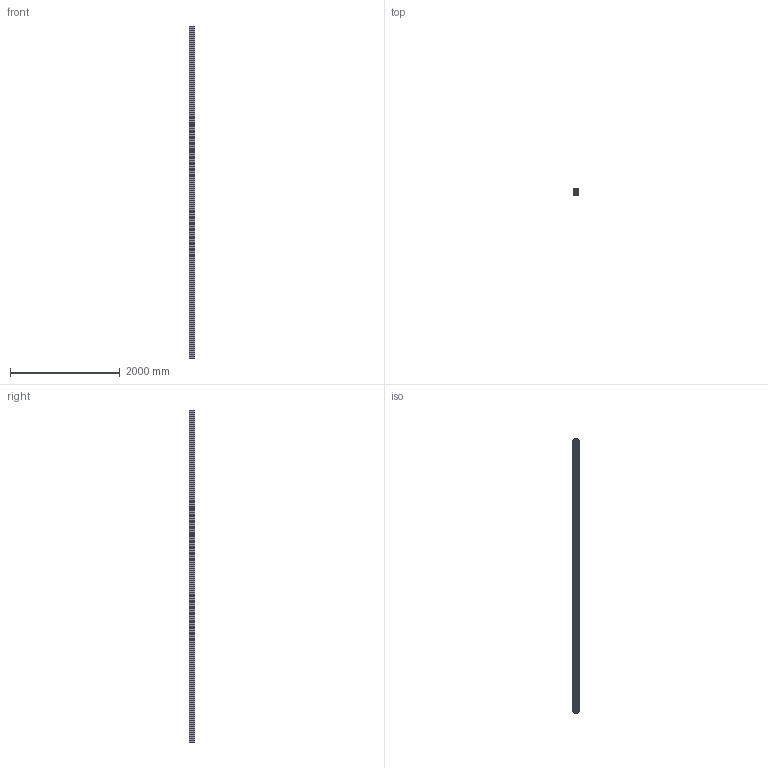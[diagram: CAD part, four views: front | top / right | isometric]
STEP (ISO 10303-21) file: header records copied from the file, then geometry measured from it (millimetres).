
FILE_DESCRIPTION (( 'STEP AP203' ), '1' );
FILE_NAME ('20216000_Profil 10 100x100 E.step', '2023-03-17T12:22:00', ( '' ), ( '' ), 'SwSTEP 2.0', 'SolidWorks 2021', '' );
FILE_SCHEMA (( 'CONFIG_CONTROL_DESIGN' ));
Length unit declared in the file: millimetre
Products named in the file (1): 20216000_Profil 10 100x100 E
Bounding box: 100 x 100 x 6060 mm (x, y, z)
Volume: 14352373.9 mm3; surface area: 10774182.6 mm2
Topology: 1 solids, 1 shells, 523 faces, 1563 edges, 1042 vertices
Faces by surface type: cylinder 313, plane 210
Entity records: 17988 total; most frequent: DIRECTION 3237, CARTESIAN_POINT 3129, ORIENTED_EDGE 3126, EDGE_CURVE 1563, AXIS2_PLACEMENT_3D 1150, VERTEX_POINT 1042, LINE 937, VECTOR 937
